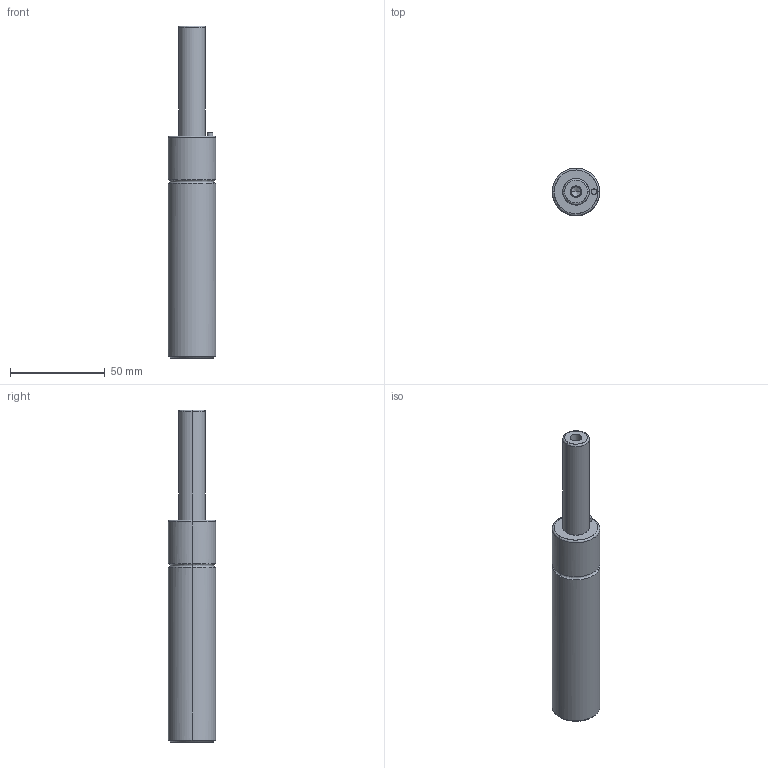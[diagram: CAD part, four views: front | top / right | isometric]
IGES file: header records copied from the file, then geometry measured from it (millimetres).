
Global section: file name: E:\UnigraphicsGraphicData\MISUMI_PRESS-PARTS\IGES\3d_gsm25-56_03917_r00.igs; native system: NX V5.0; preprocessor: UGS NX IGES V5.0; author: MISUMI; date: 20110105.160808; units: millimetre
Bounding box: 25 x 25 x 175 mm (x, y, z)
Surface area: 13084.2 mm2 (no closed solid volume)
Topology: 0 solids, 0 shells, 34 faces, 208 edges, 204 vertices
Faces by surface type: bspline 34
